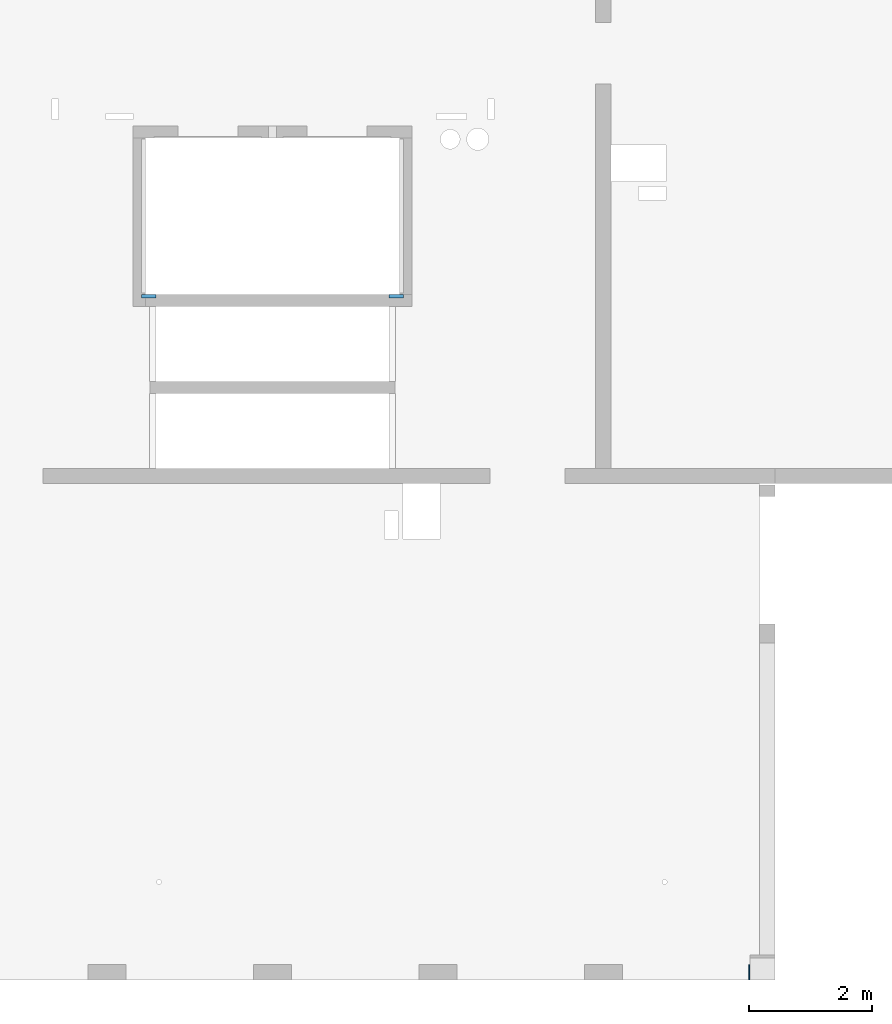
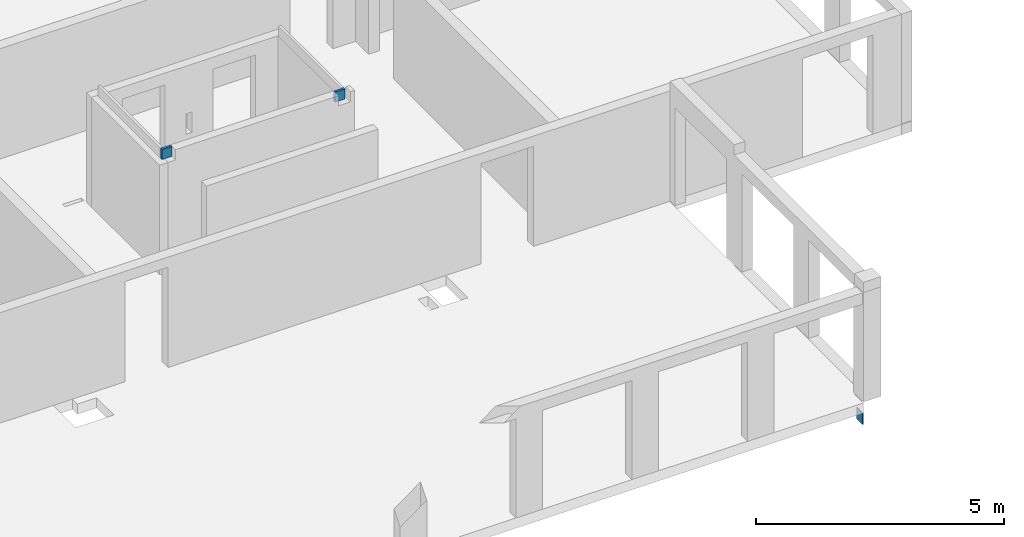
# One storey, part 5 of 8: 3 walls, 1 opening.
"""IFC2X3 building model written with IfcOpenShell, lengths in millimetres."""

from ifc_helpers import new_model, entity, si_unit, converted_unit, derived_unit, direction, frame, frame_2d, origin, place, context, subcontext, project, spatial, rectangle, extrude, material, layer, layer_set, layer_usage, type_object, element, save


model = new_model("IFC2X3")

# Units and contexts
model_context = context("Model", 3, precision=0.01, world=origin(), true_north=direction((6.12303176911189e-17, 1.0)))
body_context = subcontext(model_context, "Body", "Model", "MODEL_VIEW")
ifc_project = project(units=[si_unit("LENGTHUNIT", "METRE", prefix="MILLI"), si_unit("AREAUNIT", "SQUARE_METRE"), si_unit("VOLUMEUNIT", "CUBIC_METRE"), converted_unit("PLANEANGLEUNIT", "DEGREE", entity("IfcRatioMeasure", 0.0174532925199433), si_unit("PLANEANGLEUNIT", "RADIAN"), dimensions=[0, 0, 0, 0, 0, 0, 0]), si_unit("MASSUNIT", "GRAM", prefix="KILO"), derived_unit("MASSDENSITYUNIT", [(si_unit("MASSUNIT", "GRAM", prefix="KILO"), 1), (si_unit("LENGTHUNIT", "METRE"), -3)]), si_unit("TIMEUNIT", "SECOND"), si_unit("FREQUENCYUNIT", "HERTZ"), si_unit("THERMODYNAMICTEMPERATUREUNIT", "DEGREE_CELSIUS"), derived_unit("THERMALTRANSMITTANCEUNIT", [(si_unit("MASSUNIT", "GRAM", prefix="KILO"), 1), (si_unit("THERMODYNAMICTEMPERATUREUNIT", "KELVIN"), -1), (si_unit("TIMEUNIT", "SECOND"), -3)]), derived_unit("VOLUMETRICFLOWRATEUNIT", [(si_unit("LENGTHUNIT", "METRE"), 3), (si_unit("TIMEUNIT", "SECOND"), -1)]), si_unit("ELECTRICCURRENTUNIT", "AMPERE"), si_unit("ELECTRICVOLTAGEUNIT", "VOLT"), si_unit("POWERUNIT", "WATT"), si_unit("FORCEUNIT", "NEWTON", prefix="KILO"), si_unit("ILLUMINANCEUNIT", "LUX"), si_unit("LUMINOUSFLUXUNIT", "LUMEN"), si_unit("LUMINOUSINTENSITYUNIT", "CANDELA"), derived_unit("USERDEFINED", [(si_unit("MASSUNIT", "GRAM", prefix="KILO"), -1), (si_unit("LENGTHUNIT", "METRE"), -2), (si_unit("TIMEUNIT", "SECOND"), 3), (si_unit("LUMINOUSFLUXUNIT", "LUMEN"), 1)]), derived_unit("LINEARVELOCITYUNIT", [(si_unit("LENGTHUNIT", "METRE"), 1), (si_unit("TIMEUNIT", "SECOND"), -1)]), si_unit("PRESSUREUNIT", "PASCAL"), derived_unit("USERDEFINED", [(si_unit("LENGTHUNIT", "METRE"), -2), (si_unit("MASSUNIT", "GRAM", prefix="KILO"), 1), (si_unit("TIMEUNIT", "SECOND"), -2)])], contexts=[model_context])

# Site, building, storey
site_placement = place(None, origin())
site = spatial("IfcSite", under=ifc_project, at=site_placement, Name="Default", CompositionType="ELEMENT")
building_placement = place(site_placement, origin())
building = spatial("IfcBuilding", under=site, at=building_placement, Name="niet gebruiken", CompositionType="ELEMENT")
storey_placement = place(building_placement, frame((0.0, 0.0, 48240.0)))
storey = spatial("IfcBuildingStorey", under=building, at=storey_placement, Name="16 zestiende verdieping", CompositionType="ELEMENT", Elevation=48240.0)

# Wall, opening
ifc_material_1 = material(Name="NLRS_f2_beton ihwg")
ifc_layer_1 = layer(ifc_material_1, 250.0)
ifc_layer_set_1 = layer_set([ifc_layer_1], Name="Basic Wall:NLRS_21.21_WA_beton ihwg d=250_gen")
ifc_layer_usage_1 = layer_usage(ifc_layer_set_1, "AXIS2", "NEGATIVE", 125.0)
wall_type_1 = type_object("IfcWallType", Name="Basic Wall:NLRS_21.21_WA_beton ihwg d=250_gen", PredefinedType="STANDARD", material=ifc_layer_set_1)
wall_1_placement = place(storey_placement, frame((50970.0, 28881.0, -620.0)))
wall_1 = element("IfcWallStandardCase", 1, at=wall_1_placement, inside=storey, type_object=wall_type_1, material=ifc_layer_usage_1, Name="Basic Wall:NLRS_21.21_WA_beton ihwg d=250_gen", ObjectType="Basic Wall:NLRS_21.21_WA_beton ihwg d=250_gen", context=body_context, shape_type="SweptSolid", body=[
    extrude(rectangle(XDim=19.999999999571, YDim=250.000000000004, at=frame_2d((9.99999999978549, 1.63424829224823e-13), x_axis=(-1.0, 0.0))), origin(), (0.0, 0.0, 1.0), 280.000000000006),
])
opening_placement = place(wall_1_placement, origin())
element("IfcOpeningElement", 2, at=opening_placement, cuts=wall_1, Name="Basic Wall:NLRS_21.21_WA_beton ihwg d=250_gen", ObjectType="Opening", context=body_context, shape_type="SweptSolid", body=[
    extrude(rectangle(XDim=2440.0, YDim=2080.0, at=frame_2d((0.0, 0.0), x_axis=(0.0, 1.0))), frame((-1020.0, -1399.0, -1220.0), z_axis=(0.0, 1.0, 0.0), x_axis=(-1.0, 0.0, 0.0)), (0.0, 0.0, 1.0), 3048.0),
])

# Walls
ifc_material_2 = material(Name="NLRS_f2_beton prefab")
ifc_layer_2 = layer(ifc_material_2, 60.0)
ifc_layer_set_2 = layer_set([ifc_layer_2], Name="Basic Wall:NLRS_22.21_WA_beton prefab d=60_gen")
ifc_layer_usage_2 = layer_usage(ifc_layer_set_2, "AXIS2", "NEGATIVE", 30.0)
wall_type_2 = type_object("IfcWallType", Name="Basic Wall:NLRS_22.21_WA_beton prefab d=60_gen", PredefinedType="STANDARD", material=ifc_layer_set_2)
wall_2_placement = place(storey_placement, frame((41065.0, 39916.0, 2630.0)))
element("IfcWallStandardCase", 3, at=wall_2_placement, inside=storey, type_object=wall_type_2, material=ifc_layer_usage_2, Name="Basic Wall:NLRS_22.21_WA_beton prefab d=60_gen", ObjectType="Basic Wall:NLRS_22.21_WA_beton prefab d=60_gen", context=body_context, shape_type="SweptSolid", body=[
    extrude(rectangle(XDim=234.999967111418, YDim=60.0000000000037, at=frame_2d((117.499983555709, -4.12292422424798e-12), x_axis=(-1.0, 0.0))), origin(), (0.0, 0.0, 1.0), 250.000000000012),
])
ifc_layer_usage_3 = layer_usage(ifc_layer_set_2, "AXIS2", "POSITIVE", -30.0)
wall_3_placement = place(storey_placement, frame((45335.0, 39916.0, 2630.0), z_axis=(0.0, 0.0, 1.0), x_axis=(-1.0, 0.0, 0.0)))
element("IfcWallStandardCase", 4, at=wall_3_placement, inside=storey, type_object=wall_type_2, material=ifc_layer_usage_3, Name="Basic Wall:NLRS_22.21_WA_beton prefab d=60_gen", ObjectType="Basic Wall:NLRS_22.21_WA_beton prefab d=60_gen", context=body_context, shape_type="SweptSolid", body=[
    extrude(rectangle(XDim=234.999967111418, YDim=60.0000000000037, at=frame_2d((117.499983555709, 4.12114786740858e-12), x_axis=(-1.0, 0.0))), origin(), (0.0, 0.0, 1.0), 250.000000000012),
])

save(model, "model.ifc")
